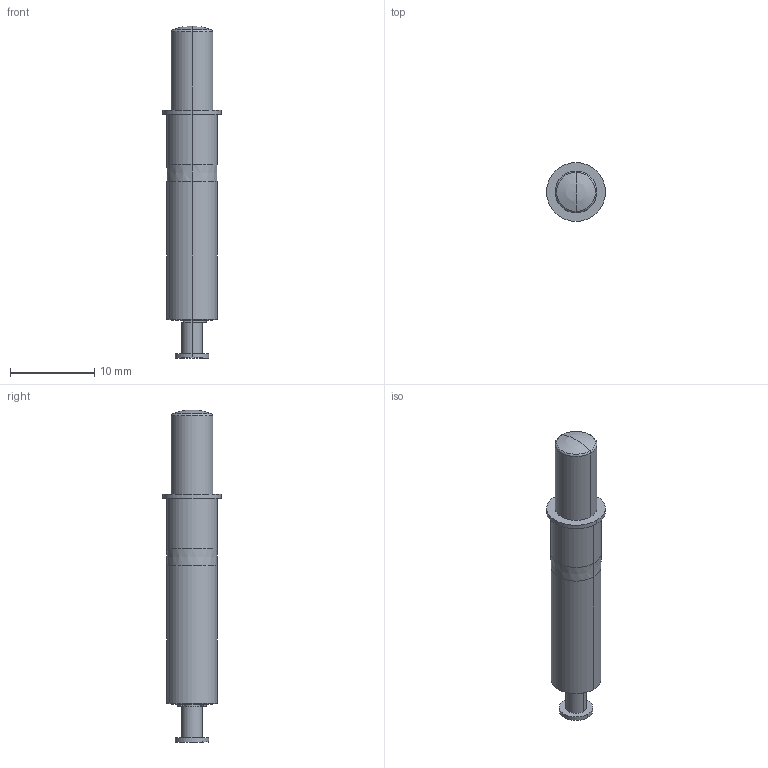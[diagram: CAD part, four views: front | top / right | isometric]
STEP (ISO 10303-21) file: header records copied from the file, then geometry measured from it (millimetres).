
FILE_DESCRIPTION (( 'STEP AP214' ), '1' );
FILE_NAME ('LT-LARGE-SCT.STEP', '2023-05-18T13:09:55', ( '' ), ( '' ), 'SwSTEP 2.0', 'SolidWorks 2022', '' );
FILE_SCHEMA (( 'AUTOMOTIVE_DESIGN' ));
Length unit declared in the file: millimetre
Products named in the file (1): LT-LARGE-SCT
Bounding box: 7 x 7 x 39.5 mm (x, y, z)
Volume: 917.6 mm3; surface area: 803.2 mm2
Topology: 4 solids, 4 shells, 48 faces, 104 edges, 65 vertices
Faces by surface type: cylinder 22, plane 18, cone 4, sphere 2, torus 2
Entity records: 1357 total; most frequent: DIRECTION 250, CARTESIAN_POINT 214, ORIENTED_EDGE 202, EDGE_CURVE 101, AXIS2_PLACEMENT_3D 100, VERTEX_POINT 64, EDGE_LOOP 51, CIRCLE 51
